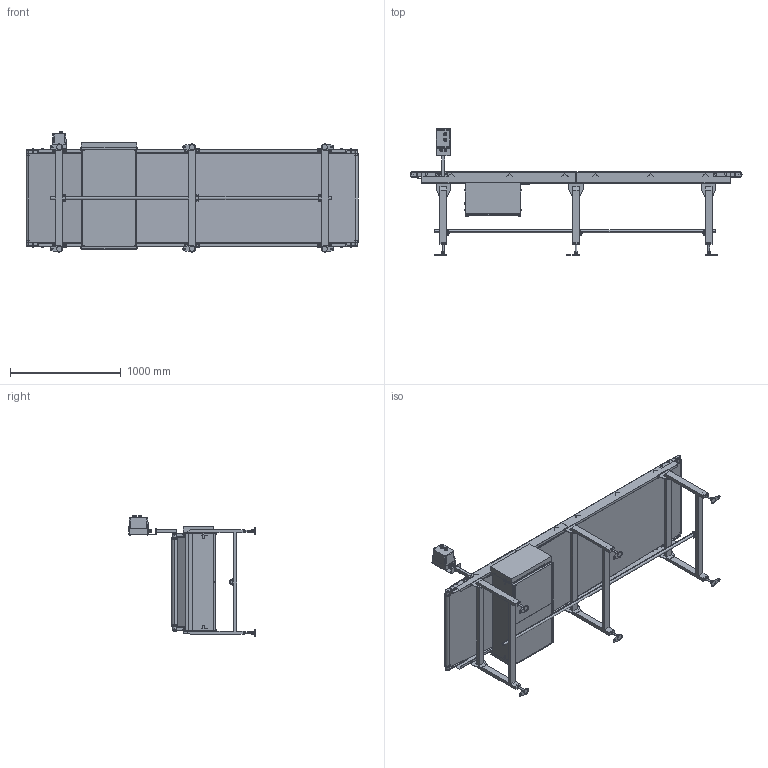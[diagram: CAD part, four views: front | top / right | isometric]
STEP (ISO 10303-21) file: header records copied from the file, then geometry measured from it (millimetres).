
FILE_DESCRIPTION( (''), '2;1');
FILE_NAME ('FB3C-340-800-300-K-30.stp','2025-02-17T14:16:30',(''),(''),'spGate 20.6.2 (****-****-****-****)','','');
FILE_SCHEMA (('AUTOMOTIVE_DESIGN'));
Length unit declared in the file: millimetre
Products named in the file (58): NewModel; FB3C-340-800-300-K-30; TEMP_X_T-prt0; TEMP_X_T-prt1; TEMP_X_T-prt2; TEMP_X_T-prt3; TEMP_X_T-prt4; TEMP_X_T-prt5; TEMP_X_T-prt6; TEMP_X_T-prt7; TEMP_X_T-prt8; TEMP_X_T-prt9; TEMP_X_T-prt10; TEMP_X_T-prt11; TEMP_X_T-prt12; TEMP_X_T-prt13; TEMP_X_T-prt14; TEMP_X_T-prt15; TEMP_X_T-prt16; TEMP_X_T-prt17; TEMP_X_T-prt18; TEMP_X_T-prt19; TEMP_X_T-prt20; TEMP_X_T-prt21; TEMP_X_T-prt22; TEMP_X_T-prt23; TEMP_X_T-prt24; TEMP_X_T-prt25; TEMP_X_T-prt26; TEMP_X_T-prt27; TEMP_X_T-prt28; TEMP_X_T-prt29; TEMP_X_T-prt30; TEMP_X_T-prt31; TEMP_X_T-prt32; TEMP_X_T-prt33; TEMP_X_T-prt34; TEMP_X_T-prt35; TEMP_X_T-prt36; TEMP_X_T-prt37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
Assembly tree (57 placements, depth 3):
  NewModel
    FB3C-340-800-300-K-30
      TEMP_X_T-prt0
      TEMP_X_T-prt1
      TEMP_X_T-prt2
      TEMP_X_T-prt3
      TEMP_X_T-prt4
      TEMP_X_T-prt5
      TEMP_X_T-prt6
      TEMP_X_T-prt7
      TEMP_X_T-prt8
      TEMP_X_T-prt9
      TEMP_X_T-prt10
      TEMP_X_T-prt11
      TEMP_X_T-prt12
      TEMP_X_T-prt13
      TEMP_X_T-prt14
      TEMP_X_T-prt15
      TEMP_X_T-prt16
      TEMP_X_T-prt17
      TEMP_X_T-prt18
      TEMP_X_T-prt19
      TEMP_X_T-prt20
      TEMP_X_T-prt21
      TEMP_X_T-prt22
      TEMP_X_T-prt23
      TEMP_X_T-prt24
      TEMP_X_T-prt25
      TEMP_X_T-prt26
      TEMP_X_T-prt27
      TEMP_X_T-prt28
      TEMP_X_T-prt29
      TEMP_X_T-prt30
      TEMP_X_T-prt31
      TEMP_X_T-prt32
      TEMP_X_T-prt33
      TEMP_X_T-prt34
      TEMP_X_T-prt35
      TEMP_X_T-prt36
      TEMP_X_T-prt37
      TEMP_X_T-prt38
      TEMP_X_T-prt39
      TEMP_X_T-prt40
      TEMP_X_T-prt41
      TEMP_X_T-prt42
      TEMP_X_T-prt43
      TEMP_X_T-prt44
      TEMP_X_T-prt45
      TEMP_X_T-prt46
      TEMP_X_T-prt47
      TEMP_X_T-prt48
      TEMP_X_T-prt49
      TEMP_X_T-prt50
      TEMP_X_T-prt51
      TEMP_X_T-prt52
      TEMP_X_T-prt53
      TEMP_X_T-prt54
      TEMP_X_T-prt55
Bounding box: 3002.36 x 1141 x 1087.5 mm (x, y, z)
Volume: 160640966.5 mm3; surface area: 24103817.6 mm2
Topology: 56 solids, 56 shells, 1822 faces, 4425 edges, 2848 vertices
Faces by surface type: plane 1332, cylinder 356, bspline 134
Entity records: 92122 total; most frequent: CARTESIAN_POINT 12171, ORIENTED_EDGE 8842, DIRECTION 8449, COLOUR_RGB 6299, PRESENTATION_STYLE_ASSIGNMENT 6299, STYLED_ITEM 6299, EDGE_CURVE 4421, DRAUGHTING_PRE_DEFINED_CURVE_FONT 4421
